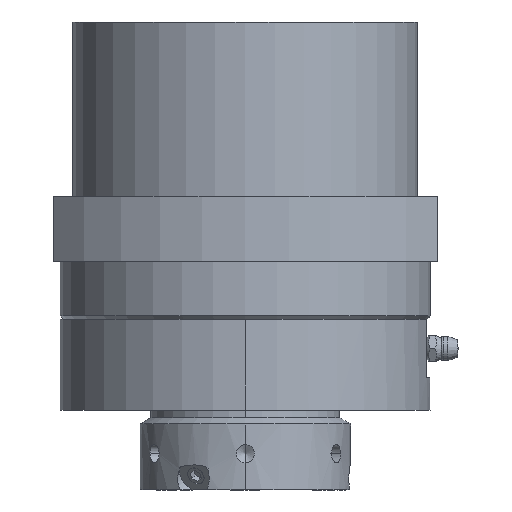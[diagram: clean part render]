
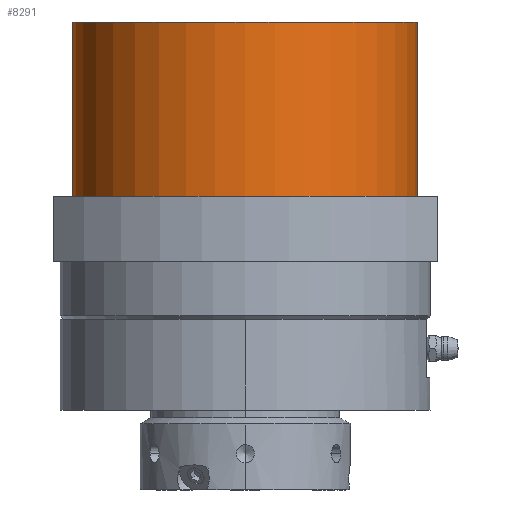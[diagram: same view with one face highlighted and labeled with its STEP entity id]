
A CAD part, front view. The second image highlights one B-rep face of the part: STEP entity #8291.
In plain terms, the highlighted cylindrical face has radius 47.5 mm (diameter 95 mm), a partial arc.
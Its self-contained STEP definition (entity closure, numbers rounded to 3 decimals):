
#213 = EDGE_CURVE ( 'NONE', #14159, #13393, #3543, .T. ) ;
#465 = CARTESIAN_POINT ( 'NONE',  ( 47.5, 0., 82. ) ) ;
#1140 = EDGE_CURVE ( 'NONE', #14159, #26910, #19874, .T. ) ;
#2093 = EDGE_LOOP ( 'NONE', ( #31509, #13695, #14423, #2948 ) ) ;
#2383 = VECTOR ( 'NONE', #17876, 1000. ) ;
#2779 = VECTOR ( 'NONE', #9451, 1000. ) ;
#2948 = ORIENTED_EDGE ( 'NONE', *, *, #20112, .T. ) ;
#3543 = LINE ( 'NONE', #4766, #2779 ) ;
#4010 = AXIS2_PLACEMENT_3D ( 'NONE', #8636, #26250, #26023 ) ;
#4766 = CARTESIAN_POINT ( 'NONE',  ( -47.5, 0., 82. ) ) ;
#5489 = CARTESIAN_POINT ( 'NONE',  ( 0., 0., 82. ) ) ;
#6511 = DIRECTION ( 'NONE',  ( 0., 0., -1. ) ) ;
#7391 = CARTESIAN_POINT ( 'NONE',  ( 0., 0., 82. ) ) ;
#7504 = CYLINDRICAL_SURFACE ( 'NONE', #11676, 47.5 ) ;
#8291 = ADVANCED_FACE ( 'NONE', ( #14118 ), #7504, .T. ) ;
#8636 = CARTESIAN_POINT ( 'NONE',  ( 0., 0., 34. ) ) ;
#9451 = DIRECTION ( 'NONE',  ( 0., 0., -1. ) ) ;
#10430 = CARTESIAN_POINT ( 'NONE',  ( -47.5, 0., 34. ) ) ;
#11218 = CARTESIAN_POINT ( 'NONE',  ( 47.5, 0., 34. ) ) ;
#11422 = CIRCLE ( 'NONE', #4010, 47.5 ) ;
#11676 = AXIS2_PLACEMENT_3D ( 'NONE', #7391, #6511, #19162 ) ;
#12806 = CARTESIAN_POINT ( 'NONE',  ( 47.5, 0., 82. ) ) ;
#13393 = VERTEX_POINT ( 'NONE', #10430 ) ;
#13695 = ORIENTED_EDGE ( 'NONE', *, *, #1140, .F. ) ;
#14118 = FACE_OUTER_BOUND ( 'NONE', #2093, .T. ) ;
#14159 = VERTEX_POINT ( 'NONE', #14324 ) ;
#14324 = CARTESIAN_POINT ( 'NONE',  ( -47.5, 0., 82. ) ) ;
#14423 = ORIENTED_EDGE ( 'NONE', *, *, #213, .T. ) ;
#15580 = LINE ( 'NONE', #465, #2383 ) ;
#17876 = DIRECTION ( 'NONE',  ( 0., 0., -1. ) ) ;
#19162 = DIRECTION ( 'NONE',  ( -1., 0., 0. ) ) ;
#19874 = CIRCLE ( 'NONE', #25180, 47.5 ) ;
#20112 = EDGE_CURVE ( 'NONE', #13393, #30838, #11422, .T. ) ;
#20664 = DIRECTION ( 'NONE',  ( 0., 0., 1. ) ) ;
#25180 = AXIS2_PLACEMENT_3D ( 'NONE', #5489, #20664, #25609 ) ;
#25609 = DIRECTION ( 'NONE',  ( 1., 0., 0. ) ) ;
#26023 = DIRECTION ( 'NONE',  ( 1., 0., 0. ) ) ;
#26250 = DIRECTION ( 'NONE',  ( 0., 0., 1. ) ) ;
#26910 = VERTEX_POINT ( 'NONE', #12806 ) ;
#30648 = EDGE_CURVE ( 'NONE', #26910, #30838, #15580, .T. ) ;
#30838 = VERTEX_POINT ( 'NONE', #11218 ) ;
#31509 = ORIENTED_EDGE ( 'NONE', *, *, #30648, .F. ) ;
